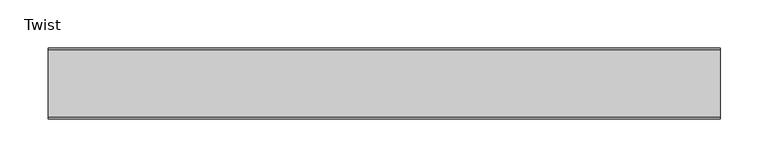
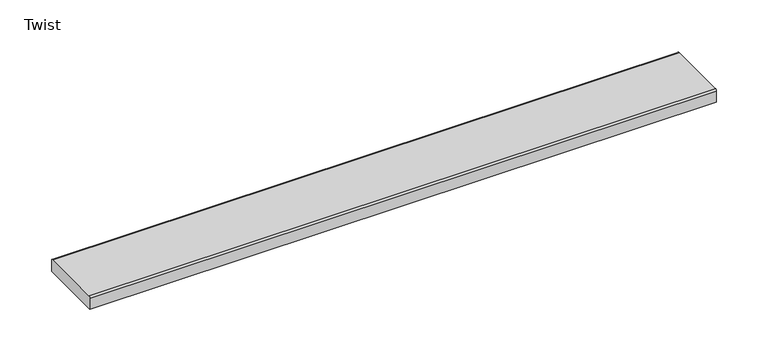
"""IFC4 building model written with IfcOpenShell, lengths in millimetres: sanitary terminal geometry, ZZZ_do not use_PF_ST_grating for showerdrain e_Aco : Twist."""

from ifc_helpers import new_model, si_unit, point, frame, frame_2d, origin, place, context, project, spatial, polyline, circle_curve, trimmed, segment, composite_curve, outline, extrude, source, transform, mapped, element, save


def twist_12184f07(model_context):
    return source(origin(), model_context, "Body", "SweptSolid", [
        extrude(outline(composite_curve([segment(polyline([(37.0, -15.0), (-37.0, -15.0), (-37.0, -1.977849)]), True, "CONTINUOUS"), segment(trimmed(circle_curve(frame_2d((-35.022151, -1.977849)), 1.977849), [point((-37.0, -1.977849))], [point((-35.022151, 0.0))], False, "CARTESIAN"), True, "CONTINUOUS"), segment(polyline([(-35.022151, 0.0), (35.022151, 0.0)]), True, "CONTINUOUS"), segment(trimmed(circle_curve(frame_2d((35.022151, -1.977849)), 1.977849), [point((35.022151, 0.0))], [point((37.0, -1.977849))], False, "CARTESIAN"), True, "CONTINUOUS"), segment(polyline([(37.0, -1.977849), (37.0, -15.0)]), True, "CONTINUOUS")], self_intersect=False)), frame((-350.0, 0.0, 0.0), z_axis=(1.0, 0.0, 0.0), x_axis=(0.0, 1.0, 0.0)), (0.0, 0.0, 1.0), 700.0),
    ])


if __name__ == "__main__":
    model = new_model("IFC4")
    model_context = context("Model", 3, world=origin())
    ifc_project = project(units=[si_unit("LENGTHUNIT", "METRE", prefix="MILLI")], contexts=[model_context])
    site = spatial("IfcSite", under=ifc_project)
    building = spatial("IfcBuilding", under=site)
    placement = place(None, origin())
    twist_shape = twist_12184f07(model_context)
    element("IfcSanitaryTerminal", 1, ObjectType="ZZZ_do not use_PF_ST_grating for showerdrain e_Aco : Twist", at=placement, inside=building, context=model_context, shape_type="MappedRepresentation", body=[
        mapped(twist_shape, transform((0.0, 0.0, 0.0), x_axis=(1.0, 0.0, 0.0), y_axis=(0.0, 1.0, 0.0), z_axis=(0.0, 0.0, 1.0))),
    ])
    save(model, "model.ifc")
